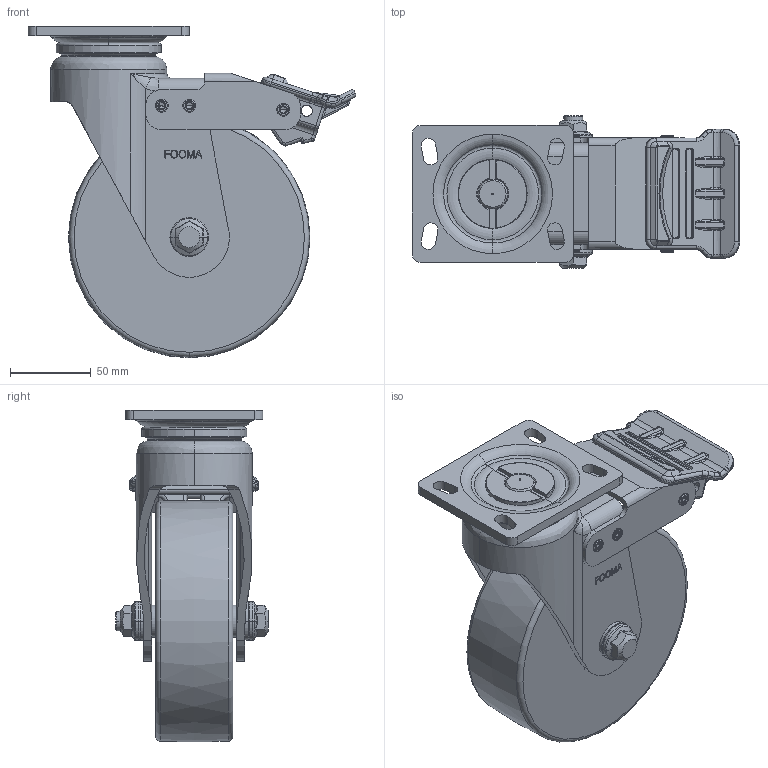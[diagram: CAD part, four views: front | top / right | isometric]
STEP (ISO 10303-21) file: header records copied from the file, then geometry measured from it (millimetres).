
FILE_DESCRIPTION((''),'2;1');
FILE_NAME('PH-150-BSF-W48.stp','2013-12-12T10:21:31',(''),(''),'Mechanical Desktop 2009','Mechanical Desktop 2009',', , ');
FILE_SCHEMA(('CONFIG_CONTROL_DESIGN'));
Length unit declared in the file: millimetre
Products named in the file (2): PH-150-BSF-W48; PLATE
Assembly tree (1 placements, depth 2):
  PH-150-BSF-W48
    PLATE
Bounding box: 203.45 x 94.8 x 205.95 mm (x, y, z)
Volume: 1156930.7 mm3; surface area: 183131.7 mm2
Topology: 9 solids, 9 shells, 1119 faces, 2833 edges, 1740 vertices
Faces by surface type: bspline 359, cylinder 352, plane 253, torus 100, cone 43, sphere 12
Entity records: 43565 total; most frequent: CARTESIAN_POINT 17757, ORIENTED_EDGE 5590, DIRECTION 5122, EDGE_CURVE 2795, AXIS2_PLACEMENT_3D 2036, VERTEX_POINT 1740, EDGE_LOOP 1211, FACE_OUTER_BOUND 1119
